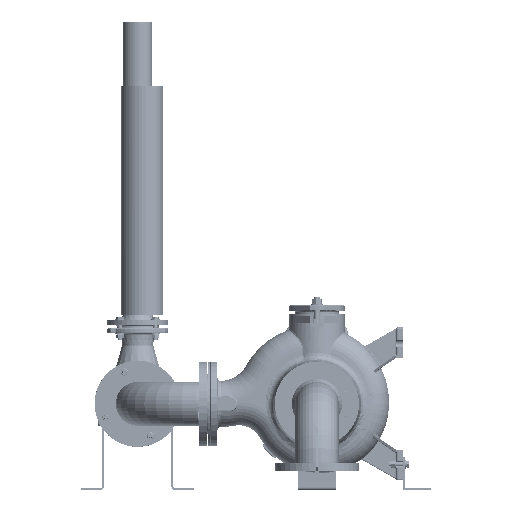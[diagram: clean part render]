
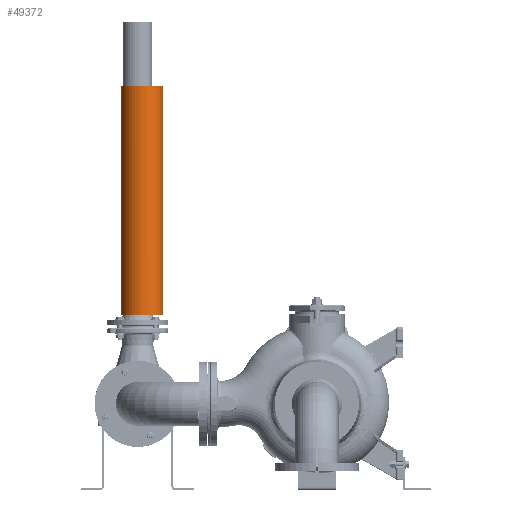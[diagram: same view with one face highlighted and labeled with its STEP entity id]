
A CAD part, front view. The second image highlights one B-rep face of the part: STEP entity #49372.
In plain terms, the highlighted cylindrical face has radius 55 mm (diameter 110 mm), a full revolution.
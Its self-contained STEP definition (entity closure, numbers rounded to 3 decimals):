
#4056=B_SPLINE_CURVE_WITH_KNOTS('',3,(#74708,#74709,#74710,#74711,#74712,
#74713,#74714,#74715,#74716,#74717),.UNSPECIFIED.,.F.,.F.,(4,2,2,2,4),(-1.51,
-1.133,-0.755,-0.378,0.),
 .UNSPECIFIED.);
#4057=B_SPLINE_CURVE_WITH_KNOTS('',3,(#74718,#74719,#74720,#74721,#74722,
#74723,#74724,#74725,#74726,#74727),.UNSPECIFIED.,.F.,.F.,(4,2,2,2,4),(-3.021,
-2.643,-2.266,-1.888,-1.51),
 .UNSPECIFIED.);
#6827=FACE_OUTER_BOUND('',#10011,.T.);
#10011=EDGE_LOOP('',(#34208,#34209,#34210,#34211,#34212,#34213,#34214,#34215));
#13473=CIRCLE('',#53556,55.);
#13475=CIRCLE('',#53559,55.);
#16789=LINE('',#74690,#19222);
#16794=LINE('',#74743,#19227);
#16795=LINE('',#74750,#19228);
#19222=VECTOR('',#60140,10.);
#19227=VECTOR('',#60149,10.);
#19228=VECTOR('',#60160,55.);
#21717=VERTEX_POINT('',#74687);
#21718=VERTEX_POINT('',#74689);
#21721=VERTEX_POINT('',#74705);
#21722=VERTEX_POINT('',#74707);
#21724=VERTEX_POINT('',#74741);
#21725=VERTEX_POINT('',#74748);
#26427=EDGE_CURVE('',#21718,#21717,#16789,.T.);
#26431=EDGE_CURVE('',#21722,#21721,#4056,.T.);
#26432=EDGE_CURVE('',#21717,#21722,#4057,.T.);
#26436=EDGE_CURVE('',#21721,#21724,#16794,.T.);
#26437=EDGE_CURVE('',#21718,#21724,#13473,.T.);
#26439=EDGE_CURVE('',#21725,#21725,#13475,.T.);
#26440=EDGE_CURVE('',#21725,#21722,#16795,.T.);
#34208=ORIENTED_EDGE('',*,*,#26439,.T.);
#34209=ORIENTED_EDGE('',*,*,#26440,.T.);
#34210=ORIENTED_EDGE('',*,*,#26431,.T.);
#34211=ORIENTED_EDGE('',*,*,#26436,.T.);
#34212=ORIENTED_EDGE('',*,*,#26437,.F.);
#34213=ORIENTED_EDGE('',*,*,#26427,.T.);
#34214=ORIENTED_EDGE('',*,*,#26432,.T.);
#34215=ORIENTED_EDGE('',*,*,#26440,.F.);
#48462=CYLINDRICAL_SURFACE('',#53558,55.);
#49372=ADVANCED_FACE('',(#6827),#48462,.T.);
#53556=AXIS2_PLACEMENT_3D('',#74745,#60152,#60153);
#53558=AXIS2_PLACEMENT_3D('',#74747,#60156,#60157);
#53559=AXIS2_PLACEMENT_3D('',#74749,#60158,#60159);
#60140=DIRECTION('',(0.,0.,1.));
#60149=DIRECTION('',(0.,0.,-1.));
#60152=DIRECTION('center_axis',(0.,0.,-1.));
#60153=DIRECTION('ref_axis',(-1.,0.,0.));
#60156=DIRECTION('center_axis',(0.,0.,1.));
#60157=DIRECTION('ref_axis',(-1.,0.,0.));
#60158=DIRECTION('center_axis',(0.,0.,-1.));
#60159=DIRECTION('ref_axis',(-1.,0.,0.));
#60160=DIRECTION('',(0.,0.,-1.));
#74687=CARTESIAN_POINT('',(54.083,-10.,20.));
#74689=CARTESIAN_POINT('',(54.083,-10.,0.));
#74690=CARTESIAN_POINT('',(54.083,-10.,0.));
#74705=CARTESIAN_POINT('',(54.083,10.,20.));
#74707=CARTESIAN_POINT('',(55.,0.,30.));
#74708=CARTESIAN_POINT('Ctrl Pts',(55.,0.,
30.));
#74709=CARTESIAN_POINT('Ctrl Pts',(55.,1.259,30.));
#74710=CARTESIAN_POINT('Ctrl Pts',(54.952,2.599,29.748));
#74711=CARTESIAN_POINT('Ctrl Pts',(54.78,5.062,28.726));
#74712=CARTESIAN_POINT('Ctrl Pts',(54.658,6.185,27.957));
#74713=CARTESIAN_POINT('Ctrl Pts',(54.429,7.957,26.185));
#74714=CARTESIAN_POINT('Ctrl Pts',(54.306,8.726,25.062));
#74715=CARTESIAN_POINT('Ctrl Pts',(54.132,9.748,22.599));
#74716=CARTESIAN_POINT('Ctrl Pts',(54.083,10.,21.259));
#74717=CARTESIAN_POINT('Ctrl Pts',(54.083,10.,20.));
#74718=CARTESIAN_POINT('Ctrl Pts',(54.083,-10.,20.));
#74719=CARTESIAN_POINT('Ctrl Pts',(54.083,-10.,21.259));
#74720=CARTESIAN_POINT('Ctrl Pts',(54.132,-9.748,22.599));
#74721=CARTESIAN_POINT('Ctrl Pts',(54.306,-8.726,25.062));
#74722=CARTESIAN_POINT('Ctrl Pts',(54.429,-7.957,26.185));
#74723=CARTESIAN_POINT('Ctrl Pts',(54.658,-6.185,27.957));
#74724=CARTESIAN_POINT('Ctrl Pts',(54.78,-5.062,28.726));
#74725=CARTESIAN_POINT('Ctrl Pts',(54.952,-2.599,29.748));
#74726=CARTESIAN_POINT('Ctrl Pts',(55.,-1.259,30.));
#74727=CARTESIAN_POINT('Ctrl Pts',(55.,0.,
30.));
#74741=CARTESIAN_POINT('',(54.083,10.,0.));
#74743=CARTESIAN_POINT('',(54.083,10.,0.));
#74745=CARTESIAN_POINT('Origin',(0.,0.,
0.));
#74747=CARTESIAN_POINT('Origin',(0.,0.,
0.));
#74748=CARTESIAN_POINT('',(55.,0.,600.));
#74749=CARTESIAN_POINT('Origin',(0.,0.,
600.));
#74750=CARTESIAN_POINT('',(55.,0.,0.));
